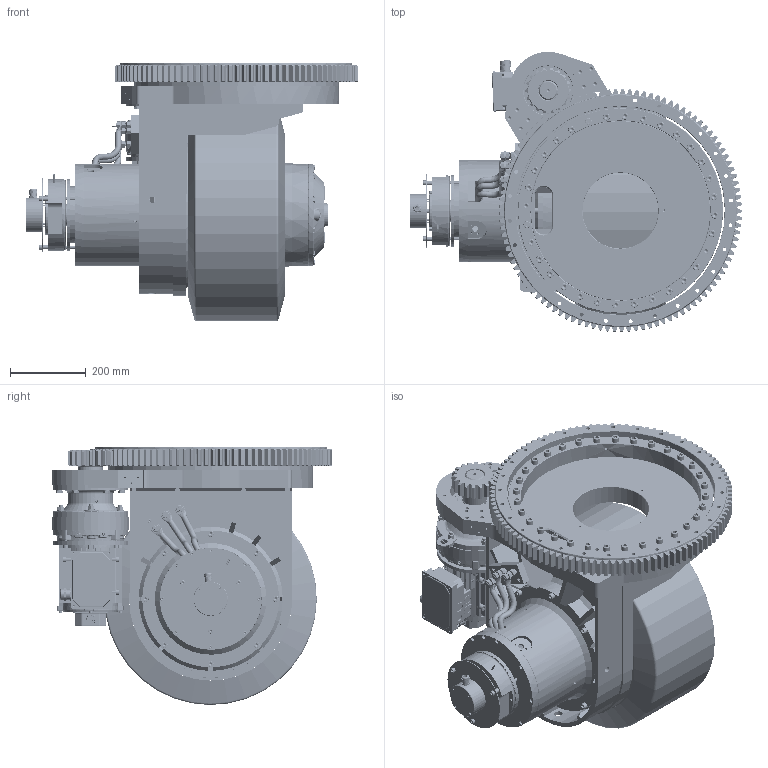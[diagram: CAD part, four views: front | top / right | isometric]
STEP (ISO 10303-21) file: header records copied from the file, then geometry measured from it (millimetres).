
FILE_DESCRIPTION(/* description */ (''),/* implementation_level */ '2;1');
FILE_NAME(/* name */ 'Z:\SITO WEB 2023\Motoruote\Orizzontali sterzanti\MR600FMS\MR600FMS PMAC + PMAC\MR600FMS-BL.stp',/* time_stamp */ '2023-09-18T15:09:15+02:00',/* author */ ('cad3'),/* organization */ (''),/* preprocessor_version */ 'ST-DEVELOPER v18.1',/* originating_system */ 'Autodesk Inventor 2022',/* authorisation */ '');
FILE_SCHEMA (('AUTOMOTIVE_DESIGN { 1 0 10303 214 3 1 1 }'));
Products named in the file (1): MR600FMS-BL
Bounding box: 874.15 x 738.6 x 679.48 mm (x, y, z)
Volume: 91826333 mm3; surface area: 7076343.2 mm2
Topology: 39 solids, 201 shells, 25724 faces, 74068 edges, 47883 vertices
Faces by surface type: plane 20853, cylinder 2355, cone 1198, torus 655, bspline 591, sphere 72
Full cylindrical faces by diameter (mm): 1 x12, 2.5 x2, 2.75 x4, 3.2 x4, 3.242 x9, 3.5 x2, 4 x11, 4.2 x4, 4.3 x3, 4.5 x5, 4.917 x28, 4.978 x2, 5 x14, 5.5 x12, 6 x36, 6.5 x27, 6.647 x22, 6.917 x4, 7 x9, 7.5 x16, 8 x37, 8.376 x23, 8.5 x10, 8.566 x3, 9 x10, 10 x65, 10.106 x71, 10.2 x3, 10.5 x25, 10.917 x1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
Entity records: 891141 total; most frequent: CARTESIAN_POINT 172048, ORIENTED_EDGE 147614, DIRECTION 144218, EDGE_CURVE 73807, AXIS2_PLACEMENT_3D 48450, VERTEX_POINT 47917, LINE 47318, VECTOR 47318
